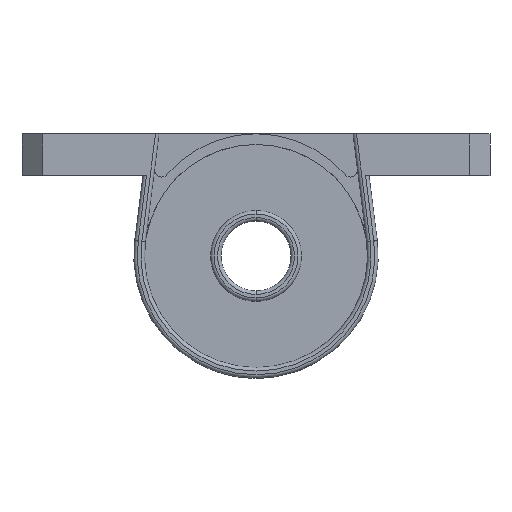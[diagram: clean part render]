
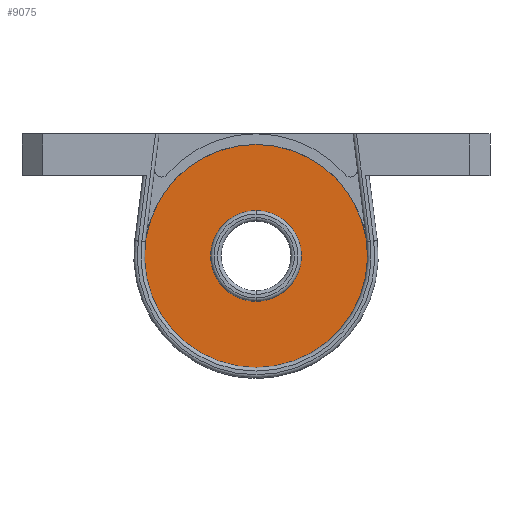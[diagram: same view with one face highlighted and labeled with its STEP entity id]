
A CAD part, front view. The second image highlights one B-rep face of the part: STEP entity #9075.
In plain terms, the highlighted planar face has unit normal (0, -1, 0).
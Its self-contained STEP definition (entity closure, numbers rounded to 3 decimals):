
#104 = CARTESIAN_POINT ( 'NONE',  ( 0., -2.5, 0.5 ) ) ;
#236 = DIRECTION ( 'NONE',  ( 0., 1., 0. ) ) ;
#370 = CARTESIAN_POINT ( 'NONE',  ( 0., -2.5, 7. ) ) ;
#488 = DIRECTION ( 'NONE',  ( 0., 0., 1. ) ) ;
#506 = VERTEX_POINT ( 'NONE', #4345 ) ;
#553 = EDGE_LOOP ( 'NONE', ( #9340, #1204 ) ) ;
#882 = CARTESIAN_POINT ( 'NONE',  ( 0., -2.5, -6. ) ) ;
#1204 = ORIENTED_EDGE ( 'NONE', *, *, #8388, .F. ) ;
#1328 = AXIS2_PLACEMENT_3D ( 'NONE', #104, #236, #5607 ) ;
#1839 = ORIENTED_EDGE ( 'NONE', *, *, #6204, .T. ) ;
#2885 = DIRECTION ( 'NONE',  ( 0., -1., 0. ) ) ;
#3181 = CARTESIAN_POINT ( 'NONE',  ( 0., -2.5, 0.5 ) ) ;
#3708 = AXIS2_PLACEMENT_3D ( 'NONE', #3802, #9174, #4570 ) ;
#3794 = AXIS2_PLACEMENT_3D ( 'NONE', #3181, #8544, #3951 ) ;
#3802 = CARTESIAN_POINT ( 'NONE',  ( 0., -2.5, 0.5 ) ) ;
#3940 = VERTEX_POINT ( 'NONE', #4261 ) ;
#3951 = DIRECTION ( 'NONE',  ( 0., 0., 1. ) ) ;
#4261 = CARTESIAN_POINT ( 'NONE',  ( 0., -2.5, -15.47 ) ) ;
#4345 = CARTESIAN_POINT ( 'NONE',  ( 0., -2.5, 16.47 ) ) ;
#4570 = DIRECTION ( 'NONE',  ( 0., 0., 1. ) ) ;
#4715 = CIRCLE ( 'NONE', #5050, 15.97 ) ;
#5050 = AXIS2_PLACEMENT_3D ( 'NONE', #7463, #2885, #8239 ) ;
#5086 = DIRECTION ( 'NONE',  ( 0., -1., 0. ) ) ;
#5468 = EDGE_CURVE ( 'NONE', #3940, #506, #9158, .T. ) ;
#5607 = DIRECTION ( 'NONE',  ( 0., 0., 1. ) ) ;
#6034 = CIRCLE ( 'NONE', #9694, 6.5 ) ;
#6204 = EDGE_CURVE ( 'NONE', #506, #3940, #4715, .T. ) ;
#6436 = EDGE_CURVE ( 'NONE', #8601, #7541, #6034, .T. ) ;
#7463 = CARTESIAN_POINT ( 'NONE',  ( 0., -2.5, 0.5 ) ) ;
#7541 = VERTEX_POINT ( 'NONE', #370 ) ;
#7858 = CIRCLE ( 'NONE', #3794, 6.5 ) ;
#8202 = FACE_BOUND ( 'NONE', #553, .T. ) ;
#8239 = DIRECTION ( 'NONE',  ( 0., 0., 1. ) ) ;
#8388 = EDGE_CURVE ( 'NONE', #7541, #8601, #7858, .T. ) ;
#8544 = DIRECTION ( 'NONE',  ( 0., -1., 0. ) ) ;
#8601 = VERTEX_POINT ( 'NONE', #882 ) ;
#9075 = ADVANCED_FACE ( 'NONE', ( #9785, #8202 ), #9441, .F. ) ;
#9158 = CIRCLE ( 'NONE', #3708, 15.97 ) ;
#9174 = DIRECTION ( 'NONE',  ( 0., -1., 0. ) ) ;
#9340 = ORIENTED_EDGE ( 'NONE', *, *, #6436, .F. ) ;
#9441 = PLANE ( 'NONE',  #1328 ) ;
#9480 = ORIENTED_EDGE ( 'NONE', *, *, #5468, .T. ) ;
#9603 = EDGE_LOOP ( 'NONE', ( #9480, #1839 ) ) ;
#9694 = AXIS2_PLACEMENT_3D ( 'NONE', #9695, #5086, #488 ) ;
#9695 = CARTESIAN_POINT ( 'NONE',  ( 0., -2.5, 0.5 ) ) ;
#9785 = FACE_OUTER_BOUND ( 'NONE', #9603, .T. ) ;
